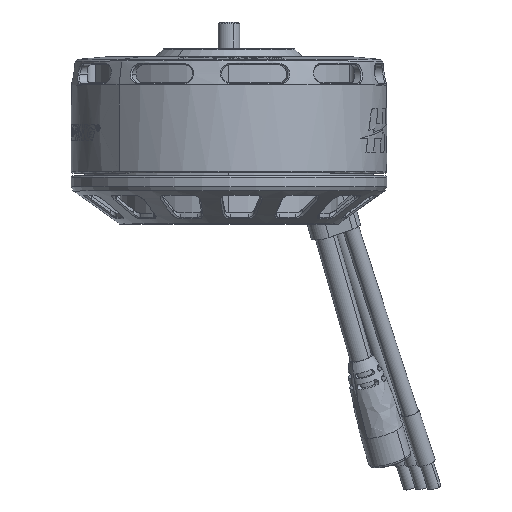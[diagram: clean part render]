
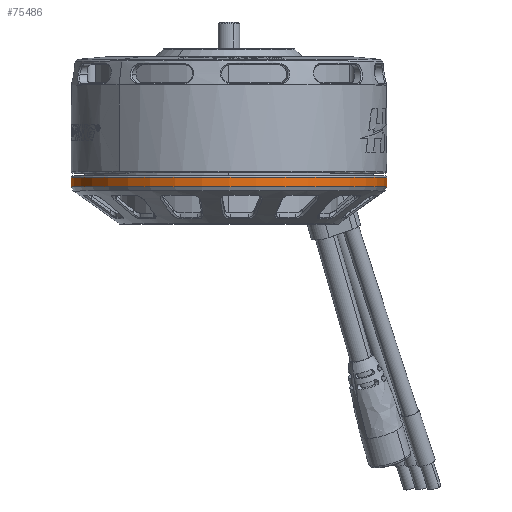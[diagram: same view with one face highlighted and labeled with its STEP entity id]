
A CAD part, top view. The second image highlights one B-rep face of the part: STEP entity #75486.
In plain terms, the highlighted cylindrical face has radius 29 mm (diameter 58 mm), a partial arc.
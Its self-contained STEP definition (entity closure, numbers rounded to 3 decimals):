
#1069 = DIRECTION ( 'NONE',  ( -1., 0., 0. ) ) ;
#2174 = CARTESIAN_POINT ( 'NONE',  ( -29., 5.6, 0. ) ) ;
#3067 = CARTESIAN_POINT ( 'NONE',  ( 0., 5.6, 0. ) ) ;
#3343 = DIRECTION ( 'NONE',  ( 0., -1., 0. ) ) ;
#3665 = AXIS2_PLACEMENT_3D ( 'NONE', #75599, #91983, #21978 ) ;
#6450 = CIRCLE ( 'NONE', #30896, 29. ) ;
#6549 = EDGE_CURVE ( 'NONE', #73840, #8296, #6450, .T. ) ;
#8296 = VERTEX_POINT ( 'NONE', #57249 ) ;
#9011 = ORIENTED_EDGE ( 'NONE', *, *, #95513, .T. ) ;
#11659 = ORIENTED_EDGE ( 'NONE', *, *, #98309, .F. ) ;
#21978 = DIRECTION ( 'NONE',  ( -1., 0., 0. ) ) ;
#28005 = DIRECTION ( 'NONE',  ( 0., -1., 0. ) ) ;
#30896 = AXIS2_PLACEMENT_3D ( 'NONE', #3067, #34248, #1069 ) ;
#30951 = CARTESIAN_POINT ( 'NONE',  ( -29., -1.3, 0. ) ) ;
#33155 = CARTESIAN_POINT ( 'NONE',  ( 29., 7.3, 0. ) ) ;
#34248 = DIRECTION ( 'NONE',  ( 0., 1., 0. ) ) ;
#43102 = EDGE_CURVE ( 'NONE', #60834, #56728, #101069, .T. ) ;
#46466 = FACE_OUTER_BOUND ( 'NONE', #76612, .T. ) ;
#50744 = ORIENTED_EDGE ( 'NONE', *, *, #43102, .T. ) ;
#54909 = DIRECTION ( 'NONE',  ( 0., -1., 0. ) ) ;
#55234 = LINE ( 'NONE', #30951, #96358 ) ;
#56728 = VERTEX_POINT ( 'NONE', #100251 ) ;
#56878 = AXIS2_PLACEMENT_3D ( 'NONE', #98520, #28005, #59635 ) ;
#57249 = CARTESIAN_POINT ( 'NONE',  ( 29., 5.6, 0. ) ) ;
#59635 = DIRECTION ( 'NONE',  ( -1., 0., 0. ) ) ;
#60834 = VERTEX_POINT ( 'NONE', #33155 ) ;
#63916 = VECTOR ( 'NONE', #3343, 1000. ) ;
#73323 = CARTESIAN_POINT ( 'NONE',  ( 29., -1.3, 0. ) ) ;
#73840 = VERTEX_POINT ( 'NONE', #2174 ) ;
#75486 = ADVANCED_FACE ( 'NONE', ( #46466 ), #77630, .T. ) ;
#75599 = CARTESIAN_POINT ( 'NONE',  ( 0., -1.3, 0. ) ) ;
#76612 = EDGE_LOOP ( 'NONE', ( #11659, #50744, #9011, #89394 ) ) ;
#77630 = CYLINDRICAL_SURFACE ( 'NONE', #3665, 29. ) ;
#81504 = LINE ( 'NONE', #73323, #63916 ) ;
#89394 = ORIENTED_EDGE ( 'NONE', *, *, #6549, .T. ) ;
#91983 = DIRECTION ( 'NONE',  ( 0., -1., 0. ) ) ;
#95513 = EDGE_CURVE ( 'NONE', #56728, #73840, #55234, .T. ) ;
#96358 = VECTOR ( 'NONE', #54909, 1000. ) ;
#98309 = EDGE_CURVE ( 'NONE', #60834, #8296, #81504, .T. ) ;
#98520 = CARTESIAN_POINT ( 'NONE',  ( 0., 7.3, 0. ) ) ;
#100251 = CARTESIAN_POINT ( 'NONE',  ( -29., 7.3, 0. ) ) ;
#101069 = CIRCLE ( 'NONE', #56878, 29. ) ;
